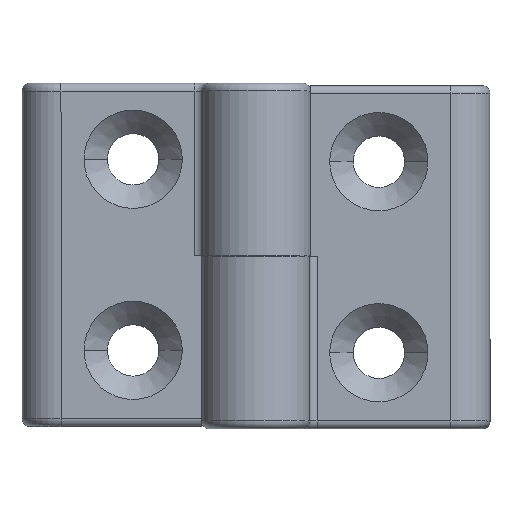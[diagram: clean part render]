
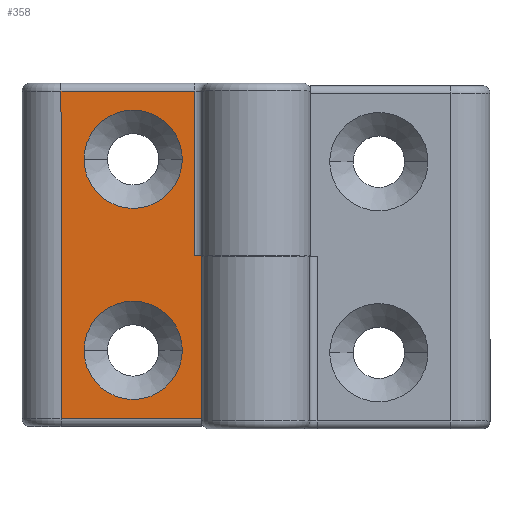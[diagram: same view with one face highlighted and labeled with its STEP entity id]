
A CAD part, top view. The second image highlights one B-rep face of the part: STEP entity #358.
In plain terms, the highlighted planar face has unit normal (0, 0, 1).
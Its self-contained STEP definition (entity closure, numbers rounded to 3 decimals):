
#226 = VERTEX_POINT ( 'NONE', #1398 ) ;
#230 = VERTEX_POINT ( 'NONE', #1452 ) ;
#232 = EDGE_CURVE ( 'NONE', #230, #226, #1399, .T. ) ;
#277 = EDGE_CURVE ( 'NONE', #644, #637, #1555, .T. ) ;
#278 = ORIENTED_EDGE ( 'NONE', *, *, #342, .T. ) ;
#279 = EDGE_CURVE ( 'NONE', #226, #230, #1584, .T. ) ;
#280 = ORIENTED_EDGE ( 'NONE', *, *, #232, .F. ) ;
#281 = VERTEX_POINT ( 'NONE', #1588 ) ;
#285 = EDGE_LOOP ( 'NONE', ( #295, #359 ) ) ;
#295 = ORIENTED_EDGE ( 'NONE', *, *, #277, .F. ) ;
#296 = VERTEX_POINT ( 'NONE', #1622 ) ;
#297 = VERTEX_POINT ( 'NONE', #1620 ) ;
#298 = EDGE_LOOP ( 'NONE', ( #355, #280 ) ) ;
#307 = VERTEX_POINT ( 'NONE', #1621 ) ;
#330 = EDGE_CURVE ( 'NONE', #351, #297, #1700, .T. ) ;
#342 = EDGE_CURVE ( 'NONE', #297, #307, #1718, .T. ) ;
#343 = EDGE_CURVE ( 'NONE', #307, #296, #1713, .T. ) ;
#344 = EDGE_CURVE ( 'NONE', #281, #351, #1768, .T. ) ;
#345 = ORIENTED_EDGE ( 'NONE', *, *, #343, .T. ) ;
#346 = EDGE_CURVE ( 'NONE', #296, #357, #1769, .T. ) ;
#348 = ORIENTED_EDGE ( 'NONE', *, *, #344, .T. ) ;
#349 = ORIENTED_EDGE ( 'NONE', *, *, #346, .T. ) ;
#350 = EDGE_CURVE ( 'NONE', #357, #281, #1708, .T. ) ;
#351 = VERTEX_POINT ( 'NONE', #1724 ) ;
#352 = ORIENTED_EDGE ( 'NONE', *, *, #350, .T. ) ;
#355 = ORIENTED_EDGE ( 'NONE', *, *, #279, .F. ) ;
#356 = ORIENTED_EDGE ( 'NONE', *, *, #330, .T. ) ;
#357 = VERTEX_POINT ( 'NONE', #1753 ) ;
#358 = ADVANCED_FACE ( 'NONE', ( #1759, #1716, #1754 ), #1749, .T. ) ;
#359 = ORIENTED_EDGE ( 'NONE', *, *, #643, .F. ) ;
#360 = EDGE_LOOP ( 'NONE', ( #278, #345, #349, #352, #348, #356 ) ) ;
#637 = VERTEX_POINT ( 'NONE', #2588 ) ;
#643 = EDGE_CURVE ( 'NONE', #637, #644, #2647, .T. ) ;
#644 = VERTEX_POINT ( 'NONE', #2687 ) ;
#1398 = CARTESIAN_POINT ( 'NONE',  ( 2.689, 8.096, 7.7 ) ) ;
#1399 = CIRCLE ( 'NONE', #1444, 6.3 ) ;
#1441 = DIRECTION ( 'NONE',  ( 1., 0., 0. ) ) ;
#1442 = DIRECTION ( 'NONE',  ( 0., 0., 1. ) ) ;
#1443 = CARTESIAN_POINT ( 'NONE',  ( -3.611, 8.096, 7.7 ) ) ;
#1444 = AXIS2_PLACEMENT_3D ( 'NONE', #1443, #1442, #1441 ) ;
#1452 = CARTESIAN_POINT ( 'NONE',  ( -9.911, 8.096, 7.7 ) ) ;
#1533 = AXIS2_PLACEMENT_3D ( 'NONE', #1583, #1582, #1581 ) ;
#1555 = CIRCLE ( 'NONE', #1533, 6.3 ) ;
#1575 = DIRECTION ( 'NONE',  ( 1., 0., 0. ) ) ;
#1576 = DIRECTION ( 'NONE',  ( 0., 0., 1. ) ) ;
#1577 = CARTESIAN_POINT ( 'NONE',  ( -3.611, 8.096, 7.7 ) ) ;
#1578 = AXIS2_PLACEMENT_3D ( 'NONE', #1577, #1576, #1575 ) ;
#1581 = DIRECTION ( 'NONE',  ( 1., 0., 0. ) ) ;
#1582 = DIRECTION ( 'NONE',  ( 0., 0., 1. ) ) ;
#1583 = CARTESIAN_POINT ( 'NONE',  ( -3.611, -16.404, 7.7 ) ) ;
#1584 = CIRCLE ( 'NONE', #1578, 6.3 ) ;
#1588 = CARTESIAN_POINT ( 'NONE',  ( 5.139, -25.154, 7.7 ) ) ;
#1620 = CARTESIAN_POINT ( 'NONE',  ( 4.286, -4.254, 7.7 ) ) ;
#1621 = CARTESIAN_POINT ( 'NONE',  ( 4.286, 16.846, 7.7 ) ) ;
#1622 = CARTESIAN_POINT ( 'NONE',  ( -12.861, 16.846, 7.7 ) ) ;
#1697 = DIRECTION ( 'NONE',  ( -1., 0., 0. ) ) ;
#1698 = VECTOR ( 'NONE', #1697, 1000. ) ;
#1699 = CARTESIAN_POINT ( 'NONE',  ( -17.861, -4.254, 7.7 ) ) ;
#1700 = LINE ( 'NONE', #1699, #1698 ) ;
#1707 = CARTESIAN_POINT ( 'NONE',  ( 5.139, -25.154, 7.7 ) ) ;
#1708 = LINE ( 'NONE', #1707, #1757 ) ;
#1712 = CARTESIAN_POINT ( 'NONE',  ( -12.861, 16.846, 7.7 ) ) ;
#1713 = LINE ( 'NONE', #1712, #1771 ) ;
#1714 = DIRECTION ( 'NONE',  ( 0., 1., 0. ) ) ;
#1715 = VECTOR ( 'NONE', #1714, 1000. ) ;
#1716 = FACE_BOUND ( 'NONE', #298, .T. ) ;
#1717 = CARTESIAN_POINT ( 'NONE',  ( 4.286, 17.846, 7.7 ) ) ;
#1718 = LINE ( 'NONE', #1717, #1715 ) ;
#1724 = CARTESIAN_POINT ( 'NONE',  ( 5.139, -4.254, 7.7 ) ) ;
#1748 = AXIS2_PLACEMENT_3D ( 'NONE', #1797, #1796, #1795 ) ;
#1749 = PLANE ( 'NONE',  #1748 ) ;
#1753 = CARTESIAN_POINT ( 'NONE',  ( -12.861, -25.154, 7.7 ) ) ;
#1754 = FACE_OUTER_BOUND ( 'NONE', #360, .T. ) ;
#1756 = DIRECTION ( 'NONE',  ( 1., 0., 0. ) ) ;
#1757 = VECTOR ( 'NONE', #1756, 1000. ) ;
#1759 = FACE_BOUND ( 'NONE', #285, .T. ) ;
#1760 = DIRECTION ( 'NONE',  ( 0., -1., 0. ) ) ;
#1761 = VECTOR ( 'NONE', #1760, 1000. ) ;
#1763 = CARTESIAN_POINT ( 'NONE',  ( -12.861, -26.154, 7.7 ) ) ;
#1764 = DIRECTION ( 'NONE',  ( 0., 1., 0. ) ) ;
#1765 = VECTOR ( 'NONE', #1764, 1000. ) ;
#1766 = CARTESIAN_POINT ( 'NONE',  ( 5.139, 17.846, 7.7 ) ) ;
#1768 = LINE ( 'NONE', #1766, #1765 ) ;
#1769 = LINE ( 'NONE', #1763, #1761 ) ;
#1770 = DIRECTION ( 'NONE',  ( -1., 0., 0. ) ) ;
#1771 = VECTOR ( 'NONE', #1770, 1000. ) ;
#1795 = DIRECTION ( 'NONE',  ( 1., 0., 0. ) ) ;
#1796 = DIRECTION ( 'NONE',  ( 0., 0., 1. ) ) ;
#1797 = CARTESIAN_POINT ( 'NONE',  ( -17.861, -26.154, 7.7 ) ) ;
#2588 = CARTESIAN_POINT ( 'NONE',  ( -9.911, -16.404, 7.7 ) ) ;
#2647 = CIRCLE ( 'NONE', #2686, 6.3 ) ;
#2683 = DIRECTION ( 'NONE',  ( 1., 0., 0. ) ) ;
#2684 = DIRECTION ( 'NONE',  ( 0., 0., 1. ) ) ;
#2685 = CARTESIAN_POINT ( 'NONE',  ( -3.611, -16.404, 7.7 ) ) ;
#2686 = AXIS2_PLACEMENT_3D ( 'NONE', #2685, #2684, #2683 ) ;
#2687 = CARTESIAN_POINT ( 'NONE',  ( 2.689, -16.404, 7.7 ) ) ;
